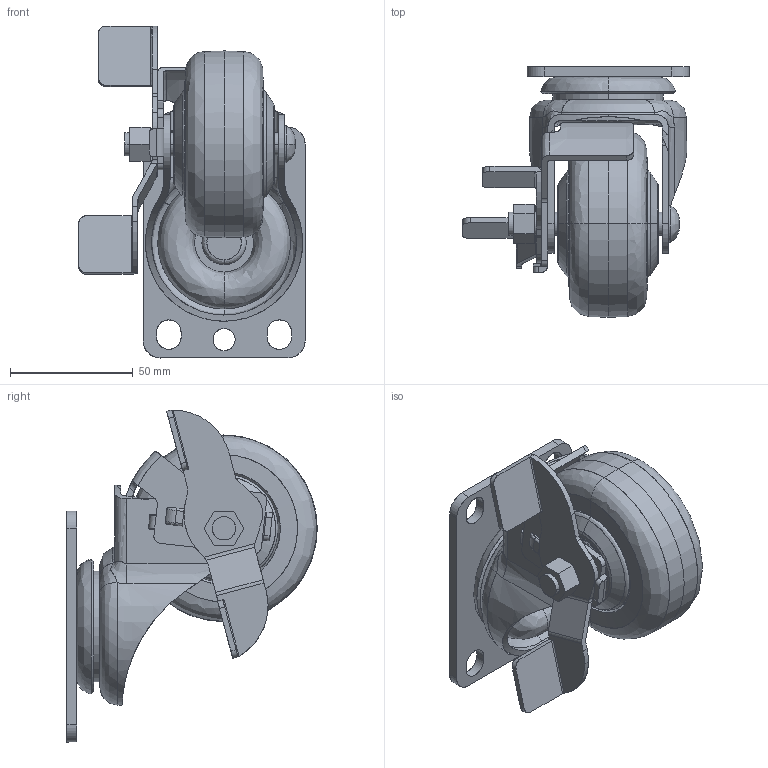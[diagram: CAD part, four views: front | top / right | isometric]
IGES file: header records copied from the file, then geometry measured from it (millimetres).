
Start section: SolidWorks IGES file using analytic representation for surfaces
Global section: file name: C:\Users\KHJ\Desktop\3D\LM5030-MIR(BRAKE).IGS; native system: SolidWorks 2012; preprocessor: SolidWorks 2012; author: KHJ; date: 121128.000701; units: millimetre
Bounding box: 92.11 x 102 x 135.16 mm (x, y, z)
Surface area: 79745 mm2 (no closed solid volume)
Topology: 0 solids, 0 shells, 415 faces, 6386 edges, 6384 vertices
Faces by surface type: bspline 286, revolution 129
